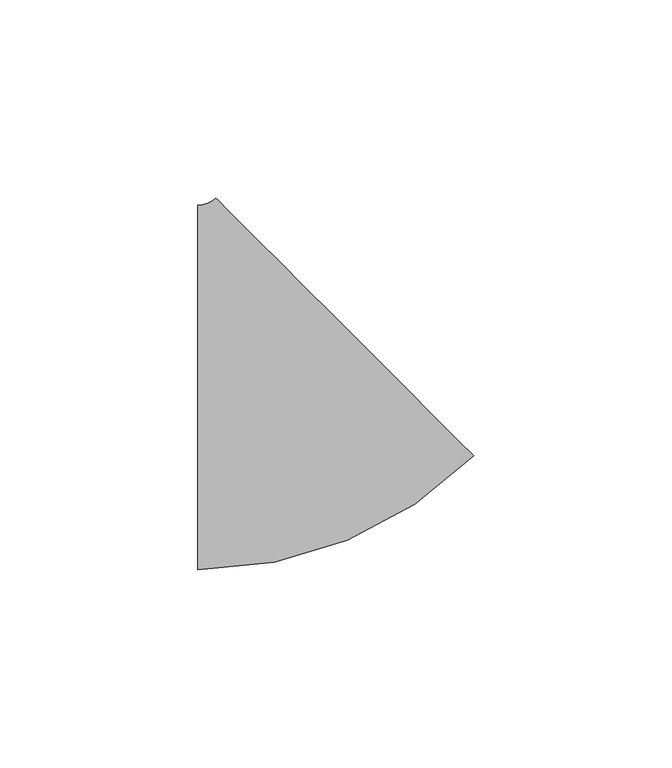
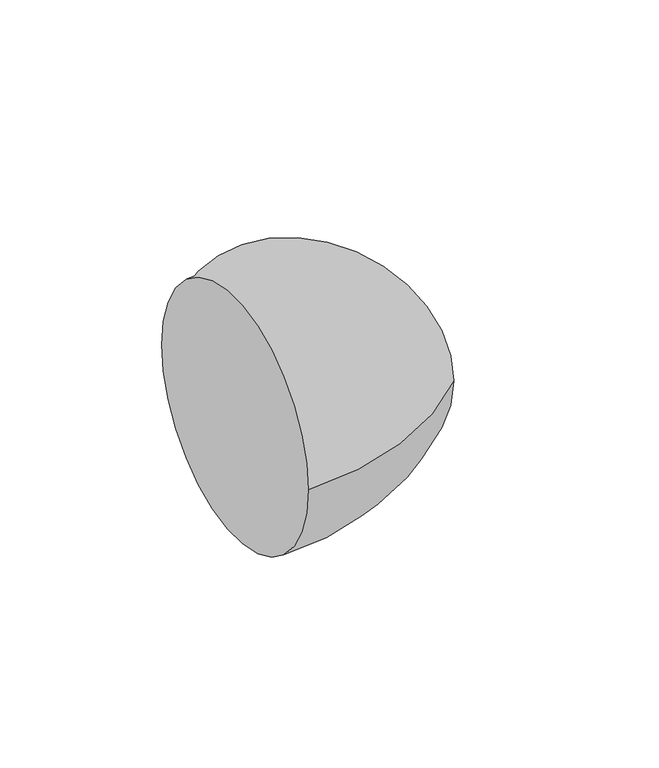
"""IFC4 building model written with IfcOpenShell, lengths in millimetres: pipe fitting geometry, M_Codo - Genérico : Estándar."""

from ifc_helpers import new_model, si_unit, point, frame, origin, place, context, project, spatial, circle_curve, ellipse_curve, trimmed, source, transform, mapped, element, save
from ifc_brep_helpers import plane_surface, revolved_surface, advanced_brep


def pipe_fitting_d311f3df(model_context):
    return source(origin(), model_context, "Body", "AdvancedBrep", [
        advanced_brep(
        [(-21.700253, -46.0375, 0.0), (-21.700253, 46.0375, 0.0), (47.8981834, -17.2080334, 0.0), (-17.2100313, 47.8974656, 0.0)],
        [
            (0, 1, circle_curve(frame((-21.700253, 0.0, 0.0), z_axis=(-1.0, 0.0, 0.0), x_axis=(0.0, 1.0, 0.0)), 46.0375)),
            (1, 0, circle_curve(frame((-21.700253, 0.0, 0.0), z_axis=(-1.0, 0.0, 0.0), x_axis=(0.0, 1.0, 0.0)), 46.0375)),
            (2, 3, circle_curve(frame((15.344076, 15.3447161, 0.0), z_axis=(0.7070920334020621, 0.7071215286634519, 0.0), x_axis=(-0.7071215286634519, 0.7070920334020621, 0.0)), 46.0375)),
            (3, 2, circle_curve(frame((15.344076, 15.3447161, 0.0), z_axis=(0.7070920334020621, 0.7071215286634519, 0.0), x_axis=(-0.7071215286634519, 0.7070920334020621, 0.0)), 46.0375)),
            (3, 1, circle_curve(frame((-21.700253, 52.3875, 0.0), z_axis=(0.0, 0.0, -1.0), x_axis=(0.0, -1.0, 0.0)), 6.35)),
            (0, 2, circle_curve(frame((-21.700253, 52.3875, 0.0), z_axis=(0.0, 0.0, 1.0), x_axis=(0.0, -1.0, 0.0)), 98.425)),
        ],
        [
            plane_surface(frame((-21.700253, 0.0, 0.0), z_axis=(-1.0, 0.0, 0.0), x_axis=(0.0, 0.0, 1.0))),
            plane_surface(frame((15.344076, 15.3447161, 0.0), z_axis=(0.7070920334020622, 0.707121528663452, 0.0), x_axis=(0.0, 0.0, 1.0))),
            revolved_surface(trimmed(ellipse_curve(frame((-21.700253, 0.0, 0.0), z_axis=(-1.0, 0.0, 0.0), x_axis=(0.0, 1.0, 0.0)), 46.0375, 46.0375), [point((-21.700253, -46.0375, 0.0))], [point((-21.700253, 46.0375, 0.0))], True, "CARTESIAN"), (-21.700253, 52.3875, 0.0), (0.0, 0.0, 1.0)),
            revolved_surface(trimmed(ellipse_curve(frame((-21.700253, 0.0, 0.0), z_axis=(-1.0, 0.0, 0.0), x_axis=(0.0, 1.0, 0.0)), 46.0375, 46.0375), [point((-21.700253, 46.0375, 0.0))], [point((-21.700253, -46.0375, 0.0))], True, "CARTESIAN"), (-21.700253, 52.3875, 0.0), (0.0, 0.0, 1.0)),
        ],
        [
            (0, [[1, 2]]),
            (1, [[3, 4]]),
            (2, [[5, -1, 6, -4]]),
            (3, [[-6, -2, -5, -3]]),
        ],
    ),
    ])


if __name__ == "__main__":
    model = new_model("IFC4")
    model_context = context("Model", 3, world=origin())
    ifc_project = project(units=[si_unit("LENGTHUNIT", "METRE", prefix="MILLI")], contexts=[model_context])
    site = spatial("IfcSite", under=ifc_project)
    building = spatial("IfcBuilding", under=site)
    placement = place(None, origin())
    pipe_fitting_shape = pipe_fitting_d311f3df(model_context)
    element("IfcPipeFitting", 1, ObjectType="M_Codo - Genérico : Estándar", at=placement, inside=building, context=model_context, shape_type="MappedRepresentation", body=[
        mapped(pipe_fitting_shape, transform((0.0, 0.0, 0.0), x_axis=(1.0, 0.0, 0.0), y_axis=(0.0, 1.0, 0.0), z_axis=(0.0, 0.0, 1.0))),
    ])
    save(model, "model.ifc")
